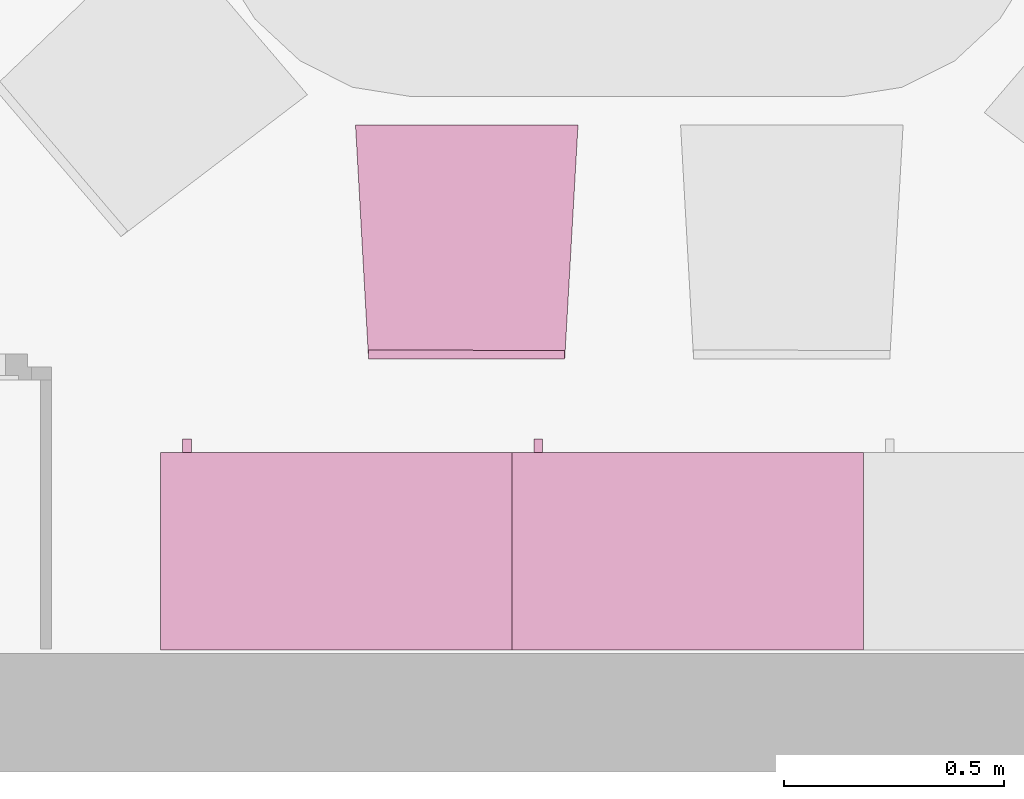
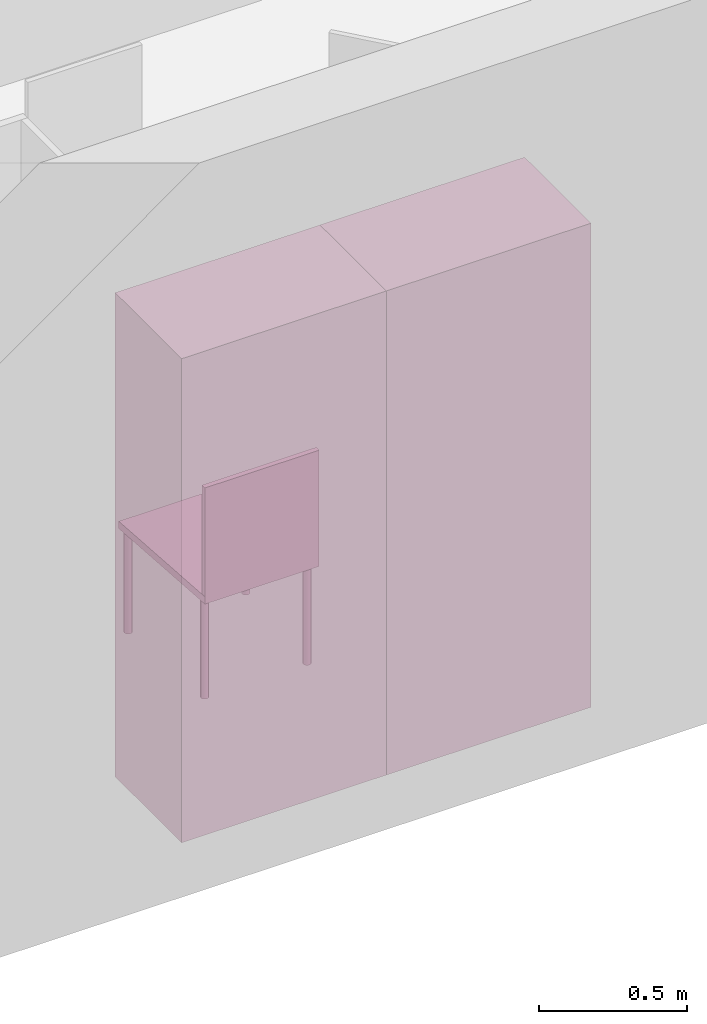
"""IFC4 building model written with IfcOpenShell, lengths in metres."""

from ifc_helpers import new_model, entity, si_unit, converted_unit, derived_unit, frame, origin, place, context, subcontext, project, spatial, faceted_brep, element, save


model = new_model("IFC4")

# Units and contexts
model_context = context("Model", 3, precision=1e-05, world=origin())
body_context = subcontext(model_context, "Body", "Model", "MODEL_VIEW")
ifc_project = project(units=[si_unit("LENGTHUNIT", "METRE"), si_unit("AREAUNIT", "SQUARE_METRE"), si_unit("VOLUMEUNIT", "CUBIC_METRE"), si_unit("MASSUNIT", "GRAM", prefix="KILO"), converted_unit("PLANEANGLEUNIT", "DEGREE", entity("IfcPlaneAngleMeasure", 0.0174532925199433), si_unit("PLANEANGLEUNIT", "RADIAN"), dimensions=[0, 0, 0, 0, 0, 0, 0]), derived_unit("THERMALTRANSMITTANCEUNIT", [(si_unit("POWERUNIT", "WATT"), 1), (si_unit("THERMODYNAMICTEMPERATUREUNIT", "KELVIN"), -1), (si_unit("LENGTHUNIT", "METRE"), -2)]), derived_unit("VOLUMETRICFLOWRATEUNIT", [(si_unit("LENGTHUNIT", "METRE"), 3), (converted_unit("TIMEUNIT", "hour", entity("IfcTimeMeasure", 3600.0), si_unit("TIMEUNIT", "SECOND"), dimensions=[0, 0, 1, 0, 0, 0, 0]), -1), (si_unit("LENGTHUNIT", "METRE"), -1)])], contexts=[model_context])

# Building, storeys
building_placement = place(None, origin())
building = spatial("IfcBuilding", under=ifc_project, at=building_placement, Name="HABITATGE PLURIFAMILIAR", CompositionType="ELEMENT")
storey_1_placement = place(building_placement, frame((0.0, 0.0, 12.27)))
storey_1 = spatial("IfcBuildingStorey", under=building, at=storey_1_placement, Name="PLANTA TERCERA", CompositionType="ELEMENT", Elevation=12.27)
storey_2_placement = place(storey_1_placement, frame((0.0, 0.0, 9.26)))
storey_2 = spatial("IfcBuildingStorey", under=storey_1, at=storey_2_placement, Name="NOU", CompositionType="PARTIAL")

# Furniture
furniture_1_placement = place(storey_2_placement, frame((407.609607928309, 13.1187866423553, -9.3599999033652)))
element("IfcFurniture", 1, at=furniture_1_placement, inside=storey_2, Name="Armai 80x45_P3", context=body_context, shape_type="Brep", body=[
    faceted_brep([(0.78, 0.430000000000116, 1.98), (0.78, 0.450000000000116, 1.98), (0.78, 0.450000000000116, 0.02), (0.78, 0.430000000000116, 0.02), (0.0, 0.450000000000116, 0.02), (0.0, 0.430000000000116, 0.02), (0.0, 0.450000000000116, 1.98), (0.0, 0.430000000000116, 1.98)], [[[0, 1, 2, 3]], [[3, 2, 4, 5]], [[5, 4, 6, 7]], [[7, 6, 1, 0]], [[0, 3, 5, 7]], [[1, 6, 4, 2]]], orient=[[False], [False], [False], [False], [False], [False]]),
    faceted_brep([(0.8, 0.450000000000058, 1.98), (0.78, 0.450000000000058, 1.98), (0.78, 0.450000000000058, 0.02), (0.8, 0.450000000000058, 0.02), (0.78, 0.0, 0.02), (0.8, 0.0, 0.02), (0.78, 0.0, 1.98), (0.8, 0.0, 1.98)], [[[0, 1, 2, 3]], [[3, 2, 4, 5]], [[5, 4, 6, 7]], [[7, 6, 1, 0]], [[0, 3, 5, 7]], [[1, 6, 4, 2]]], orient=[[False], [False], [False], [False], [False], [False]]),
    faceted_brep([(0.0, 0.450000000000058, 0.02), (0.0, 0.450000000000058, 0.0), (0.8, 0.450000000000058, 0.0), (0.8, 0.450000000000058, 0.02), (0.8, 0.0, 0.0), (0.8, 0.0, 0.02), (0.0, 0.0, 0.0), (0.0, 0.0, 0.02)], [[[0, 1, 2, 3]], [[3, 2, 4, 5]], [[5, 4, 6, 7]], [[7, 6, 1, 0]], [[0, 3, 5, 7]], [[1, 6, 4, 2]]], orient=[[False], [False], [False], [False], [False], [False]]),
    faceted_brep([(0.0, 0.450000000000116, 2.0), (0.0, 0.450000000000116, 1.98), (0.8, 0.450000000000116, 1.98), (0.8, 0.450000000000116, 2.0), (0.8, 0.0, 1.98), (0.8, 0.0, 2.0), (0.0, 0.0, 1.98), (0.0, 0.0, 2.0)], [[[0, 1, 2, 3]], [[3, 2, 4, 5]], [[5, 4, 6, 7]], [[7, 6, 1, 0]], [[0, 3, 5, 7]], [[1, 6, 4, 2]]], orient=[[False], [False], [False], [False], [False], [False]]),
    faceted_brep([(0.02, 0.450000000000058, 1.98), (0.0, 0.450000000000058, 1.98), (0.0, 0.450000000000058, 0.02), (0.02, 0.450000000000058, 0.02), (0.0, 0.0, 0.02), (0.02, 0.0, 0.02), (0.0, 0.0, 1.98), (0.02, 0.0, 1.98)], [[[0, 1, 2, 3]], [[3, 2, 4, 5]], [[5, 4, 6, 7]], [[7, 6, 1, 0]], [[0, 3, 5, 7]], [[1, 6, 4, 2]]], orient=[[False], [False], [False], [False], [False], [False]]),
    faceted_brep([(0.78, 0.0, 1.98), (0.78, 0.0200000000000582, 1.98), (0.78, 0.0200000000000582, 0.02), (0.78, 0.0, 0.02), (0.02, 0.0200000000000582, 0.02), (0.02, 0.0, 0.02), (0.02, 0.0200000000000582, 1.98), (0.02, 0.0, 1.98)], [[[0, 1, 2, 3]], [[3, 2, 4, 5]], [[5, 4, 6, 7]], [[7, 6, 1, 0]], [[0, 3, 5, 7]], [[1, 6, 4, 2]]], orient=[[False], [False], [False], [False], [False], [False]]),
    faceted_brep([(0.0, 0.430000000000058, 1.98), (0.0, 0.450000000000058, 1.98), (0.0, 0.450000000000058, 0.02), (0.0, 0.430000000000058, 0.02), (0.02, 0.450000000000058, 0.02), (0.02, 0.430000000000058, 0.02), (0.02, 0.450000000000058, 1.98), (0.02, 0.430000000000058, 1.98)], [[[0, 1, 2, 3]], [[3, 2, 4, 5]], [[5, 4, 6, 7]], [[7, 6, 1, 0]], [[0, 3, 5, 7]], [[1, 6, 4, 2]]], orient=[[False], [False], [False], [False], [False], [False]]),
    faceted_brep([(0.07, 0.450000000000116, 1.01806481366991), (0.07, 0.480000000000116, 1.01806481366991), (0.07, 0.480000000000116, 0.918064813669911), (0.07, 0.450000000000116, 0.918064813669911), (0.05, 0.480000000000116, 0.918064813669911), (0.05, 0.450000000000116, 0.918064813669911), (0.05, 0.480000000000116, 1.01806481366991), (0.05, 0.450000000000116, 1.01806481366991)], [[[0, 1, 2, 3]], [[3, 2, 4, 5]], [[5, 4, 6, 7]], [[7, 6, 1, 0]], [[0, 3, 5, 7]], [[1, 6, 4, 2]]], orient=[[False], [False], [False], [False], [False], [False]]),
])
furniture_2_placement = place(storey_2_placement, frame((408.409607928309, 13.1187866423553, -9.3599999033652)))
element("IfcFurniture", 2, at=furniture_2_placement, inside=storey_2, Name="Armai 80x45_P3", context=body_context, shape_type="Brep", body=[
    faceted_brep([(0.78, 0.430000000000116, 1.98), (0.78, 0.450000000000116, 1.98), (0.78, 0.450000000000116, 0.02), (0.78, 0.430000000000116, 0.02), (0.0, 0.450000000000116, 0.02), (0.0, 0.430000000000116, 0.02), (0.0, 0.450000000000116, 1.98), (0.0, 0.430000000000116, 1.98)], [[[0, 1, 2, 3]], [[3, 2, 4, 5]], [[5, 4, 6, 7]], [[7, 6, 1, 0]], [[0, 3, 5, 7]], [[1, 6, 4, 2]]], orient=[[False], [False], [False], [False], [False], [False]]),
    faceted_brep([(0.8, 0.450000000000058, 1.98), (0.78, 0.450000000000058, 1.98), (0.78, 0.450000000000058, 0.02), (0.8, 0.450000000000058, 0.02), (0.78, 0.0, 0.02), (0.8, 0.0, 0.02), (0.78, 0.0, 1.98), (0.8, 0.0, 1.98)], [[[0, 1, 2, 3]], [[3, 2, 4, 5]], [[5, 4, 6, 7]], [[7, 6, 1, 0]], [[0, 3, 5, 7]], [[1, 6, 4, 2]]], orient=[[False], [False], [False], [False], [False], [False]]),
    faceted_brep([(0.0, 0.450000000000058, 0.02), (0.0, 0.450000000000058, 0.0), (0.8, 0.450000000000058, 0.0), (0.8, 0.450000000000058, 0.02), (0.8, 0.0, 0.0), (0.8, 0.0, 0.02), (0.0, 0.0, 0.0), (0.0, 0.0, 0.02)], [[[0, 1, 2, 3]], [[3, 2, 4, 5]], [[5, 4, 6, 7]], [[7, 6, 1, 0]], [[0, 3, 5, 7]], [[1, 6, 4, 2]]], orient=[[False], [False], [False], [False], [False], [False]]),
    faceted_brep([(0.0, 0.450000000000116, 2.0), (0.0, 0.450000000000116, 1.98), (0.8, 0.450000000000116, 1.98), (0.8, 0.450000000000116, 2.0), (0.8, 0.0, 1.98), (0.8, 0.0, 2.0), (0.0, 0.0, 1.98), (0.0, 0.0, 2.0)], [[[0, 1, 2, 3]], [[3, 2, 4, 5]], [[5, 4, 6, 7]], [[7, 6, 1, 0]], [[0, 3, 5, 7]], [[1, 6, 4, 2]]], orient=[[False], [False], [False], [False], [False], [False]]),
    faceted_brep([(0.02, 0.450000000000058, 1.98), (0.0, 0.450000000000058, 1.98), (0.0, 0.450000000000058, 0.02), (0.02, 0.450000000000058, 0.02), (0.0, 0.0, 0.02), (0.02, 0.0, 0.02), (0.0, 0.0, 1.98), (0.02, 0.0, 1.98)], [[[0, 1, 2, 3]], [[3, 2, 4, 5]], [[5, 4, 6, 7]], [[7, 6, 1, 0]], [[0, 3, 5, 7]], [[1, 6, 4, 2]]], orient=[[False], [False], [False], [False], [False], [False]]),
    faceted_brep([(0.78, 0.0, 1.98), (0.78, 0.0200000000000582, 1.98), (0.78, 0.0200000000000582, 0.02), (0.78, 0.0, 0.02), (0.02, 0.0200000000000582, 0.02), (0.02, 0.0, 0.02), (0.02, 0.0200000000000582, 1.98), (0.02, 0.0, 1.98)], [[[0, 1, 2, 3]], [[3, 2, 4, 5]], [[5, 4, 6, 7]], [[7, 6, 1, 0]], [[0, 3, 5, 7]], [[1, 6, 4, 2]]], orient=[[False], [False], [False], [False], [False], [False]]),
    faceted_brep([(0.0, 0.430000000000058, 1.98), (0.0, 0.450000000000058, 1.98), (0.0, 0.450000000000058, 0.02), (0.0, 0.430000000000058, 0.02), (0.02, 0.450000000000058, 0.02), (0.02, 0.430000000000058, 0.02), (0.02, 0.450000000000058, 1.98), (0.02, 0.430000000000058, 1.98)], [[[0, 1, 2, 3]], [[3, 2, 4, 5]], [[5, 4, 6, 7]], [[7, 6, 1, 0]], [[0, 3, 5, 7]], [[1, 6, 4, 2]]], orient=[[False], [False], [False], [False], [False], [False]]),
    faceted_brep([(0.07, 0.450000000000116, 1.01806481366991), (0.07, 0.480000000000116, 1.01806481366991), (0.07, 0.480000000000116, 0.918064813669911), (0.07, 0.450000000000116, 0.918064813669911), (0.05, 0.480000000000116, 0.918064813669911), (0.05, 0.450000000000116, 0.918064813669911), (0.05, 0.480000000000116, 1.01806481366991), (0.05, 0.450000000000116, 1.01806481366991)], [[[0, 1, 2, 3]], [[3, 2, 4, 5]], [[5, 4, 6, 7]], [[7, 6, 1, 0]], [[0, 3, 5, 7]], [[1, 6, 4, 2]]], orient=[[False], [False], [False], [False], [False], [False]]),
])
furniture_3_placement = place(storey_2_placement, frame((408.053371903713, 13.7810152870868, -9.35960511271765)))
element("IfcFurniture", 3, at=furniture_3_placement, inside=storey_2, Name="Cadira confident_P3", context=body_context, shape_type="Brep", body=[
    faceted_brep([(0.49721229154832, 0.507507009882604, 0.0), (0.496985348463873, 0.510100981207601, 0.0), (0.496311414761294, 0.512616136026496, 0.0), (0.495210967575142, 0.514976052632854, 0.0), (0.493717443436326, 0.517109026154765, 0.0), (0.491876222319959, 0.518950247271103, 0.0), (0.48974324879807, 0.520443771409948, 0.0), (0.487383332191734, 0.5215442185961, 0.0), (0.484868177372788, 0.522218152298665, 0.0), (0.482274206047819, 0.522445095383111, 0.0), (0.479680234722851, 0.522218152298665, 0.0), (0.477165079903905, 0.5215442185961, 0.0), (0.474805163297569, 0.520443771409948, 0.0), (0.47267218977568, 0.518950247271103, 0.0), (0.470830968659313, 0.517109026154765, 0.0), (0.469337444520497, 0.514976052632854, 0.0), (0.468236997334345, 0.512616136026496, 0.0), (0.467563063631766, 0.510100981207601, 0.0), (0.467336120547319, 0.507507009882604, 0.0), (0.467563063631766, 0.504913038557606, 0.0), (0.468236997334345, 0.502397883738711, 0.0), (0.469337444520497, 0.500037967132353, 0.0), (0.470830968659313, 0.497904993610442, 0.0), (0.47267218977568, 0.496063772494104, 0.0), (0.474805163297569, 0.49457024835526, 0.0), (0.477165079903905, 0.493469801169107, 0.0), (0.479680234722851, 0.492795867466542, 0.0), (0.482274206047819, 0.492568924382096, 0.0), (0.484868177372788, 0.492795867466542, 0.0), (0.487383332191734, 0.493469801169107, 0.0), (0.48974324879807, 0.49457024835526, 0.0), (0.491876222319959, 0.496063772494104, 0.0), (0.493717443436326, 0.497904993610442, 0.0), (0.495210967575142, 0.500037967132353, 0.0), (0.496311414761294, 0.502397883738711, 0.0), (0.496985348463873, 0.504913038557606, 0.0), (0.49721229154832, 0.507507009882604, 0.44828198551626), (0.496985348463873, 0.504913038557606, 0.44828198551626), (0.496311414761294, 0.502397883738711, 0.44828198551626), (0.495210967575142, 0.500037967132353, 0.44828198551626), (0.493717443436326, 0.497904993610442, 0.44828198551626), (0.491876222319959, 0.496063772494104, 0.44828198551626), (0.48974324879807, 0.49457024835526, 0.44828198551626), (0.487383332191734, 0.493469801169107, 0.44828198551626), (0.484868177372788, 0.492795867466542, 0.44828198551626), (0.482274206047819, 0.492568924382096, 0.44828198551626), (0.479680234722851, 0.492795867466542, 0.44828198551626), (0.477165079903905, 0.493469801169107, 0.44828198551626), (0.474805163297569, 0.49457024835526, 0.44828198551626), (0.47267218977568, 0.496063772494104, 0.44828198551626), (0.470830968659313, 0.497904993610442, 0.44828198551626), (0.469337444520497, 0.500037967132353, 0.44828198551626), (0.468236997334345, 0.502397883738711, 0.44828198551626), (0.467563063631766, 0.504913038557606, 0.44828198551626), (0.467336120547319, 0.507507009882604, 0.44828198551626), (0.467563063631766, 0.510100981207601, 0.44828198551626), (0.468236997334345, 0.512616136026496, 0.44828198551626), (0.469337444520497, 0.514976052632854, 0.44828198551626), (0.470830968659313, 0.517109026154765, 0.44828198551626), (0.47267218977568, 0.518950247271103, 0.44828198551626), (0.474805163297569, 0.520443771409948, 0.44828198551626), (0.477165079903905, 0.5215442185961, 0.44828198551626), (0.479680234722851, 0.522218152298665, 0.44828198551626), (0.482274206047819, 0.522445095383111, 0.44828198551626), (0.484868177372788, 0.522218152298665, 0.44828198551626), (0.487383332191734, 0.5215442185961, 0.44828198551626), (0.48974324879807, 0.520443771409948, 0.44828198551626), (0.491876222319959, 0.518950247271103, 0.44828198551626), (0.493717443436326, 0.517109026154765, 0.44828198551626), (0.495210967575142, 0.514976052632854, 0.44828198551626), (0.496311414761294, 0.512616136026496, 0.44828198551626), (0.496985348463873, 0.510100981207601, 0.44828198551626)], [[[0, 1, 2, 3, 4, 5, 6, 7, 8, 9, 10, 11, 12, 13, 14, 15, 16, 17, 18, 19, 20, 21, 22, 23, 24, 25, 26, 27, 28, 29, 30, 31, 32, 33, 34, 35]], [[36, 37, 38, 39, 40, 41, 42, 43, 44, 45, 46, 47, 48, 49, 50, 51, 52, 53, 54, 55, 56, 57, 58, 59, 60, 61, 62, 63, 64, 65, 66, 67, 68, 69, 70, 71]], [[35, 37, 36, 0]], [[34, 38, 37, 35]], [[33, 39, 38, 34]], [[32, 40, 39, 33]], [[31, 41, 40, 32]], [[30, 42, 41, 31]], [[29, 43, 42, 30]], [[28, 44, 43, 29]], [[27, 45, 44, 28]], [[26, 46, 45, 27]], [[25, 47, 46, 26]], [[24, 48, 47, 25]], [[23, 49, 48, 24]], [[22, 50, 49, 23]], [[21, 51, 50, 22]], [[20, 52, 51, 21]], [[19, 53, 52, 20]], [[18, 54, 53, 19]], [[17, 55, 54, 18]], [[16, 56, 55, 17]], [[15, 57, 56, 16]], [[14, 58, 57, 15]], [[13, 59, 58, 14]], [[12, 60, 59, 13]], [[11, 61, 60, 12]], [[10, 62, 61, 11]], [[9, 63, 62, 10]], [[8, 64, 63, 9]], [[7, 65, 64, 8]], [[6, 66, 65, 7]], [[5, 67, 66, 6]], [[4, 68, 67, 5]], [[3, 69, 68, 4]], [[2, 70, 69, 3]], [[1, 71, 70, 2]], [[0, 36, 71, 1]]], orient=[[False], [False], [False], [False], [False], [False], [False], [False], [False], [False], [False], [False], [False], [False], [False], [False], [False], [False], [False], [False], [False], [False], [False], [False], [False], [False], [False], [False], [False], [False], [False], [False], [False], [False], [False], [False], [False], [False]]),
    faceted_brep([(0.469302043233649, 0.0451163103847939, 0.0), (0.469075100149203, 0.0477102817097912, 0.0), (0.468401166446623, 0.0502254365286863, 0.0), (0.467300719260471, 0.052585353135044, 0.0), (0.465807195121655, 0.0547183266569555, 0.0), (0.463965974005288, 0.0565595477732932, 0.0), (0.461833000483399, 0.058053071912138, 0.0), (0.459473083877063, 0.0591535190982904, 0.0), (0.456957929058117, 0.0598274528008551, 0.0), (0.454363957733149, 0.0600543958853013, 0.0), (0.451769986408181, 0.0598274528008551, 0.0), (0.449254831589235, 0.0591535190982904, 0.0), (0.446894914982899, 0.058053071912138, 0.0), (0.444761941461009, 0.0565595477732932, 0.0), (0.442920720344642, 0.0547183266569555, 0.0), (0.441427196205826, 0.052585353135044, 0.0), (0.440326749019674, 0.0502254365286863, 0.0), (0.439652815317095, 0.0477102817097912, 0.0), (0.439425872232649, 0.0451163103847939, 0.0), (0.439652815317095, 0.0425223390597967, 0.0), (0.440326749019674, 0.0400071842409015, 0.0), (0.441427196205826, 0.0376472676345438, 0.0), (0.442920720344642, 0.0355142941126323, 0.0), (0.444761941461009, 0.0336730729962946, 0.0), (0.446894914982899, 0.0321795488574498, 0.0), (0.449254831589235, 0.0310791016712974, 0.0), (0.451769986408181, 0.0304051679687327, 0.0), (0.454363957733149, 0.0301782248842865, 0.0), (0.456957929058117, 0.0304051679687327, 0.0), (0.459473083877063, 0.0310791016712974, 0.0), (0.461833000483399, 0.0321795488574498, 0.0), (0.463965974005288, 0.0336730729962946, 0.0), (0.465807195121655, 0.0355142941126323, 0.0), (0.467300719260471, 0.0376472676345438, 0.0), (0.468401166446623, 0.0400071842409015, 0.0), (0.469075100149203, 0.0425223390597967, 0.0), (0.469302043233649, 0.0451163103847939, 0.44828198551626), (0.469075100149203, 0.0425223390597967, 0.44828198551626), (0.468401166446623, 0.0400071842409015, 0.44828198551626), (0.467300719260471, 0.0376472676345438, 0.44828198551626), (0.465807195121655, 0.0355142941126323, 0.44828198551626), (0.463965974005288, 0.0336730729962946, 0.44828198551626), (0.461833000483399, 0.0321795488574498, 0.44828198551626), (0.459473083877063, 0.0310791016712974, 0.44828198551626), (0.456957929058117, 0.0304051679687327, 0.44828198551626), (0.454363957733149, 0.0301782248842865, 0.44828198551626), (0.451769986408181, 0.0304051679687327, 0.44828198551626), (0.449254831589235, 0.0310791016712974, 0.44828198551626), (0.446894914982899, 0.0321795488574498, 0.44828198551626), (0.444761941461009, 0.0336730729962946, 0.44828198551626), (0.442920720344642, 0.0355142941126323, 0.44828198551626), (0.441427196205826, 0.0376472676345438, 0.44828198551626), (0.440326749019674, 0.0400071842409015, 0.44828198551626), (0.439652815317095, 0.0425223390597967, 0.44828198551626), (0.439425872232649, 0.0451163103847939, 0.44828198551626), (0.439652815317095, 0.0477102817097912, 0.44828198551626), (0.440326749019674, 0.0502254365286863, 0.44828198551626), (0.441427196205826, 0.052585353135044, 0.44828198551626), (0.442920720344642, 0.0547183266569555, 0.44828198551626), (0.444761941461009, 0.0565595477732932, 0.44828198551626), (0.446894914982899, 0.058053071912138, 0.44828198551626), (0.449254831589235, 0.0591535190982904, 0.44828198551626), (0.451769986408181, 0.0598274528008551, 0.44828198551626), (0.454363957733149, 0.0600543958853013, 0.44828198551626), (0.456957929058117, 0.0598274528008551, 0.44828198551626), (0.459473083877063, 0.0591535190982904, 0.44828198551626), (0.461833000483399, 0.058053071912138, 0.44828198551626), (0.463965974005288, 0.0565595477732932, 0.44828198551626), (0.465807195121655, 0.0547183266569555, 0.44828198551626), (0.467300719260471, 0.052585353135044, 0.44828198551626), (0.468401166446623, 0.0502254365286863, 0.44828198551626), (0.469075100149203, 0.0477102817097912, 0.44828198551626)], [[[0, 1, 2, 3, 4, 5, 6, 7, 8, 9, 10, 11, 12, 13, 14, 15, 16, 17, 18, 19, 20, 21, 22, 23, 24, 25, 26, 27, 28, 29, 30, 31, 32, 33, 34, 35]], [[36, 37, 38, 39, 40, 41, 42, 43, 44, 45, 46, 47, 48, 49, 50, 51, 52, 53, 54, 55, 56, 57, 58, 59, 60, 61, 62, 63, 64, 65, 66, 67, 68, 69, 70, 71]], [[35, 37, 36, 0]], [[34, 38, 37, 35]], [[33, 39, 38, 34]], [[32, 40, 39, 33]], [[31, 41, 40, 32]], [[30, 42, 41, 31]], [[29, 43, 42, 30]], [[28, 44, 43, 29]], [[27, 45, 44, 28]], [[26, 46, 45, 27]], [[25, 47, 46, 26]], [[24, 48, 47, 25]], [[23, 49, 48, 24]], [[22, 50, 49, 23]], [[21, 51, 50, 22]], [[20, 52, 51, 21]], [[19, 53, 52, 20]], [[18, 54, 53, 19]], [[17, 55, 54, 18]], [[16, 56, 55, 17]], [[15, 57, 56, 16]], [[14, 58, 57, 15]], [[13, 59, 58, 14]], [[12, 60, 59, 13]], [[11, 61, 60, 12]], [[10, 62, 61, 11]], [[9, 63, 62, 10]], [[8, 64, 63, 9]], [[7, 65, 64, 8]], [[6, 66, 65, 7]], [[5, 67, 66, 6]], [[4, 68, 67, 5]], [[3, 69, 68, 4]], [[2, 70, 69, 3]], [[1, 71, 70, 2]], [[0, 36, 71, 1]]], orient=[[False], [False], [False], [False], [False], [False], [False], [False], [False], [False], [False], [False], [False], [False], [False], [False], [False], [False], [False], [False], [False], [False], [False], [False], [False], [False], [False], [False], [False], [False], [False], [False], [False], [False], [False], [False], [False], [False]]),
    faceted_brep([(0.0372123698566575, 0.507777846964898, 0.0), (0.0369854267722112, 0.510371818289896, 0.0), (0.036311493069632, 0.512886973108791, 0.0), (0.0352110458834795, 0.515246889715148, 0.0), (0.0337175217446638, 0.51737986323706, 0.0), (0.031876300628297, 0.519221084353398, 0.0), (0.0297433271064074, 0.520714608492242, 0.0), (0.0273834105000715, 0.521815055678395, 0.0), (0.0248682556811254, 0.52248898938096, 0.0), (0.0222742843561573, 0.522715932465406, 0.0), (0.0196803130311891, 0.52248898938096, 0.0), (0.0171651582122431, 0.521815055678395, 0.0), (0.0148052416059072, 0.520714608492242, 0.0), (0.0126722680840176, 0.519221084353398, 0.0), (0.0108310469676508, 0.51737986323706, 0.0), (0.00933752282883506, 0.515246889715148, 0.0), (0.00823707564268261, 0.512886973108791, 0.0), (0.00756314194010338, 0.510371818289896, 0.0), (0.00733619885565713, 0.507777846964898, 0.0), (0.00756314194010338, 0.505183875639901, 0.0), (0.00823707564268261, 0.502668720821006, 0.0), (0.00933752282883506, 0.500308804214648, 0.0), (0.0108310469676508, 0.498175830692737, 0.0), (0.0126722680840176, 0.496334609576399, 0.0), (0.0148052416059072, 0.494841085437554, 0.0), (0.0171651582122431, 0.493740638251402, 0.0), (0.0196803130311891, 0.493066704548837, 0.0), (0.0222742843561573, 0.492839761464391, 0.0), (0.0248682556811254, 0.493066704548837, 0.0), (0.0273834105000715, 0.493740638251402, 0.0), (0.0297433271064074, 0.494841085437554, 0.0), (0.031876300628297, 0.496334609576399, 0.0), (0.0337175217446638, 0.498175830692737, 0.0), (0.0352110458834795, 0.500308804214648, 0.0), (0.036311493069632, 0.502668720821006, 0.0), (0.0369854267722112, 0.505183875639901, 0.0), (0.0372123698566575, 0.507777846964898, 0.44828198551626), (0.0369854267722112, 0.505183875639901, 0.44828198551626), (0.036311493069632, 0.502668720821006, 0.44828198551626), (0.0352110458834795, 0.500308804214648, 0.44828198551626), (0.0337175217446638, 0.498175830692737, 0.44828198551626), (0.031876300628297, 0.496334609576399, 0.44828198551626), (0.0297433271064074, 0.494841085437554, 0.44828198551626), (0.0273834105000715, 0.493740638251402, 0.44828198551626), (0.0248682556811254, 0.493066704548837, 0.44828198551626), (0.0222742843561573, 0.492839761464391, 0.44828198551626), (0.0196803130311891, 0.493066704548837, 0.44828198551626), (0.0171651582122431, 0.493740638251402, 0.44828198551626), (0.0148052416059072, 0.494841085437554, 0.44828198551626), (0.0126722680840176, 0.496334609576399, 0.44828198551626), (0.0108310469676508, 0.498175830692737, 0.44828198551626), (0.00933752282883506, 0.500308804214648, 0.44828198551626), (0.00823707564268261, 0.502668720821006, 0.44828198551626), (0.00756314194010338, 0.505183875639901, 0.44828198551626), (0.00733619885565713, 0.507777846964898, 0.44828198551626), (0.00756314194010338, 0.510371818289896, 0.44828198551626), (0.00823707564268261, 0.512886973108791, 0.44828198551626), (0.00933752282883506, 0.515246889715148, 0.44828198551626), (0.0108310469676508, 0.51737986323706, 0.44828198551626), (0.0126722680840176, 0.519221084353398, 0.44828198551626), (0.0148052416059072, 0.520714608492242, 0.44828198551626), (0.0171651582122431, 0.521815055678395, 0.44828198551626), (0.0196803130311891, 0.52248898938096, 0.44828198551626), (0.0222742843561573, 0.522715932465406, 0.44828198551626), (0.0248682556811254, 0.52248898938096, 0.44828198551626), (0.0273834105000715, 0.521815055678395, 0.44828198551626), (0.0297433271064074, 0.520714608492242, 0.44828198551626), (0.031876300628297, 0.519221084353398, 0.44828198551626), (0.0337175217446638, 0.51737986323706, 0.44828198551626), (0.0352110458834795, 0.515246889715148, 0.44828198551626), (0.036311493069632, 0.512886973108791, 0.44828198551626), (0.0369854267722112, 0.510371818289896, 0.44828198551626)], [[[0, 1, 2, 3, 4, 5, 6, 7, 8, 9, 10, 11, 12, 13, 14, 15, 16, 17, 18, 19, 20, 21, 22, 23, 24, 25, 26, 27, 28, 29, 30, 31, 32, 33, 34, 35]], [[36, 37, 38, 39, 40, 41, 42, 43, 44, 45, 46, 47, 48, 49, 50, 51, 52, 53, 54, 55, 56, 57, 58, 59, 60, 61, 62, 63, 64, 65, 66, 67, 68, 69, 70, 71]], [[35, 37, 36, 0]], [[34, 38, 37, 35]], [[33, 39, 38, 34]], [[32, 40, 39, 33]], [[31, 41, 40, 32]], [[30, 42, 41, 31]], [[29, 43, 42, 30]], [[28, 44, 43, 29]], [[27, 45, 44, 28]], [[26, 46, 45, 27]], [[25, 47, 46, 26]], [[24, 48, 47, 25]], [[23, 49, 48, 24]], [[22, 50, 49, 23]], [[21, 51, 50, 22]], [[20, 52, 51, 21]], [[19, 53, 52, 20]], [[18, 54, 53, 19]], [[17, 55, 54, 18]], [[16, 56, 55, 17]], [[15, 57, 56, 16]], [[14, 58, 57, 15]], [[13, 59, 58, 14]], [[12, 60, 59, 13]], [[11, 61, 60, 12]], [[10, 62, 61, 11]], [[9, 63, 62, 10]], [[8, 64, 63, 9]], [[7, 65, 64, 8]], [[6, 66, 65, 7]], [[5, 67, 66, 6]], [[4, 68, 67, 5]], [[3, 69, 68, 4]], [[2, 70, 69, 3]], [[1, 71, 70, 2]], [[0, 36, 71, 1]]], orient=[[False], [False], [False], [False], [False], [False], [False], [False], [False], [False], [False], [False], [False], [False], [False], [False], [False], [False], [False], [False], [False], [False], [False], [False], [False], [False], [False], [False], [False], [False], [False], [False], [False], [False], [False], [False], [False], [False]]),
    faceted_brep([(0.0693021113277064, 0.0453518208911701, 0.0), (0.0690751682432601, 0.0479457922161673, 0.0), (0.0684012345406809, 0.0504609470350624, 0.0), (0.0673007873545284, 0.0528208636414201, 0.0), (0.0658072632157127, 0.0549538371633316, 0.0), (0.0639660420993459, 0.0567950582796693, 0.0), (0.0618330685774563, 0.0582885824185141, 0.0), (0.0594731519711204, 0.0593890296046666, 0.0), (0.0569579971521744, 0.0600629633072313, 0.0), (0.0543640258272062, 0.0602899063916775, 0.0), (0.0517700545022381, 0.0600629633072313, 0.0), (0.049254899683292, 0.0593890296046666, 0.0), (0.0468949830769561, 0.0582885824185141, 0.0), (0.0447620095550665, 0.0567950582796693, 0.0), (0.0429207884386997, 0.0549538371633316, 0.0), (0.041427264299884, 0.0528208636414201, 0.0), (0.0403268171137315, 0.0504609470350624, 0.0), (0.0396528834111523, 0.0479457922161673, 0.0), (0.039425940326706, 0.0453518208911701, 0.0), (0.0396528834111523, 0.0427578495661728, 0.0), (0.0403268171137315, 0.0402426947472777, 0.0), (0.041427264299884, 0.03788277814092, 0.0), (0.0429207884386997, 0.0357498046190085, 0.0), (0.0447620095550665, 0.0339085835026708, 0.0), (0.0468949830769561, 0.032415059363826, 0.0), (0.049254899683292, 0.0313146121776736, 0.0), (0.0517700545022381, 0.0306406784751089, 0.0), (0.0543640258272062, 0.0304137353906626, 0.0), (0.0569579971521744, 0.0306406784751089, 0.0), (0.0594731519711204, 0.0313146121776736, 0.0), (0.0618330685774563, 0.032415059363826, 0.0), (0.0639660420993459, 0.0339085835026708, 0.0), (0.0658072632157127, 0.0357498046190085, 0.0), (0.0673007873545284, 0.03788277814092, 0.0), (0.0684012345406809, 0.0402426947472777, 0.0), (0.0690751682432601, 0.0427578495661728, 0.0), (0.0693021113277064, 0.0453518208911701, 0.44828198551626), (0.0690751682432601, 0.0427578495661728, 0.44828198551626), (0.0684012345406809, 0.0402426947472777, 0.44828198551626), (0.0673007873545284, 0.03788277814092, 0.44828198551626), (0.0658072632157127, 0.0357498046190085, 0.44828198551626), (0.0639660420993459, 0.0339085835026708, 0.44828198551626), (0.0618330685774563, 0.032415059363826, 0.44828198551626), (0.0594731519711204, 0.0313146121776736, 0.44828198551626), (0.0569579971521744, 0.0306406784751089, 0.44828198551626), (0.0543640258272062, 0.0304137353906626, 0.44828198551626), (0.0517700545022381, 0.0306406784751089, 0.44828198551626), (0.049254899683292, 0.0313146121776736, 0.44828198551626), (0.0468949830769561, 0.032415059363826, 0.44828198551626), (0.0447620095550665, 0.0339085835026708, 0.44828198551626), (0.0429207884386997, 0.0357498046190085, 0.44828198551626), (0.041427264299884, 0.03788277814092, 0.44828198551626), (0.0403268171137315, 0.0402426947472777, 0.44828198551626), (0.0396528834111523, 0.0427578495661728, 0.44828198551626), (0.039425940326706, 0.0453518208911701, 0.44828198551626), (0.0396528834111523, 0.0479457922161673, 0.44828198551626), (0.0403268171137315, 0.0504609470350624, 0.44828198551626), (0.041427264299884, 0.0528208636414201, 0.44828198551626), (0.0429207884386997, 0.0549538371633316, 0.44828198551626), (0.0447620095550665, 0.0567950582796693, 0.44828198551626), (0.0468949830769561, 0.0582885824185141, 0.44828198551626), (0.049254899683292, 0.0593890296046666, 0.44828198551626), (0.0517700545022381, 0.0600629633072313, 0.44828198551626), (0.0543640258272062, 0.0602899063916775, 0.44828198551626), (0.0569579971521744, 0.0600629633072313, 0.44828198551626), (0.0594731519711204, 0.0593890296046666, 0.44828198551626), (0.0618330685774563, 0.0582885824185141, 0.44828198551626), (0.0639660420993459, 0.0567950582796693, 0.44828198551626), (0.0658072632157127, 0.0549538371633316, 0.44828198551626), (0.0673007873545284, 0.0528208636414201, 0.44828198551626), (0.0684012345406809, 0.0504609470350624, 0.44828198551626), (0.0690751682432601, 0.0479457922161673, 0.44828198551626)], [[[0, 1, 2, 3, 4, 5, 6, 7, 8, 9, 10, 11, 12, 13, 14, 15, 16, 17, 18, 19, 20, 21, 22, 23, 24, 25, 26, 27, 28, 29, 30, 31, 32, 33, 34, 35]], [[36, 37, 38, 39, 40, 41, 42, 43, 44, 45, 46, 47, 48, 49, 50, 51, 52, 53, 54, 55, 56, 57, 58, 59, 60, 61, 62, 63, 64, 65, 66, 67, 68, 69, 70, 71]], [[35, 37, 36, 0]], [[34, 38, 37, 35]], [[33, 39, 38, 34]], [[32, 40, 39, 33]], [[31, 41, 40, 32]], [[30, 42, 41, 31]], [[29, 43, 42, 30]], [[28, 44, 43, 29]], [[27, 45, 44, 28]], [[26, 46, 45, 27]], [[25, 47, 46, 26]], [[24, 48, 47, 25]], [[23, 49, 48, 24]], [[22, 50, 49, 23]], [[21, 51, 50, 22]], [[20, 52, 51, 21]], [[19, 53, 52, 20]], [[18, 54, 53, 19]], [[17, 55, 54, 18]], [[16, 56, 55, 17]], [[15, 57, 56, 16]], [[14, 58, 57, 15]], [[13, 59, 58, 14]], [[12, 60, 59, 13]], [[11, 61, 60, 12]], [[10, 62, 61, 11]], [[9, 63, 62, 10]], [[8, 64, 63, 9]], [[7, 65, 64, 8]], [[6, 66, 65, 7]], [[5, 67, 66, 6]], [[4, 68, 67, 5]], [[3, 69, 68, 4]], [[2, 70, 69, 3]], [[1, 71, 70, 2]], [[0, 36, 71, 1]]], orient=[[False], [False], [False], [False], [False], [False], [False], [False], [False], [False], [False], [False], [False], [False], [False], [False], [False], [False], [False], [False], [False], [False], [False], [False], [False], [False], [False], [False], [False], [False], [False], [False], [False], [False], [False], [False], [False], [False]]),
    faceted_brep([(0.0296864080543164, 0.000262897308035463, 0.41828198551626), (0.47620111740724, 0.0, 0.41828198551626), (0.506514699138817, 0.532590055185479, 0.41828198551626), (0.0, 0.532888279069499, 0.41828198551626), (0.0, 0.532888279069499, 0.44828198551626), (0.506514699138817, 0.532590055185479, 0.44828198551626), (0.47620111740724, 0.0, 0.44828198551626), (0.0296864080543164, 0.000262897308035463, 0.44828198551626)], [[[0, 1, 2, 3]], [[4, 5, 6, 7]], [[3, 4, 7, 0]], [[2, 5, 4, 3]], [[1, 6, 5, 2]], [[0, 7, 6, 1]]], orient=[[False], [False], [False], [False], [False], [False]]),
    faceted_brep([(0.0296981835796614, 0.0202628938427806, 0.44828198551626), (0.0296864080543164, 0.00026289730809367, 0.44828198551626), (0.47620111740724, 0.0, 0.44828198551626), (0.476212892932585, 0.0199999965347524, 0.44828198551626), (0.476212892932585, 0.0199999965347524, 0.898281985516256), (0.47620111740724, 0.0, 0.898281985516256), (0.0296864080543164, 0.00026289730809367, 0.898281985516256), (0.0296981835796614, 0.0202628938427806, 0.898281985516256)], [[[0, 1, 2, 3]], [[4, 5, 6, 7]], [[3, 4, 7, 0]], [[2, 5, 4, 3]], [[1, 6, 5, 2]], [[0, 7, 6, 1]]], orient=[[False], [False], [False], [False], [False], [False]]),
])

save(model, "model.ifc")
